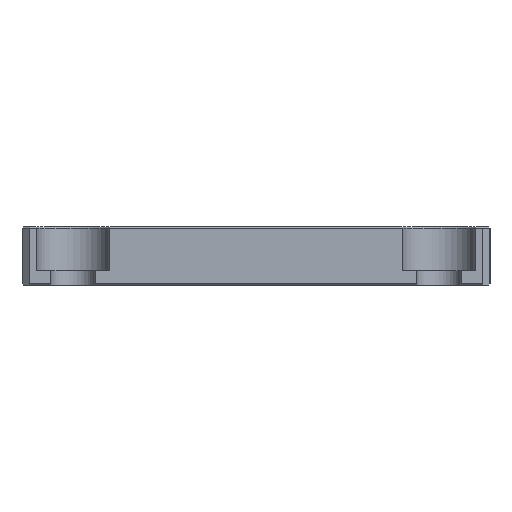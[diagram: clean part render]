
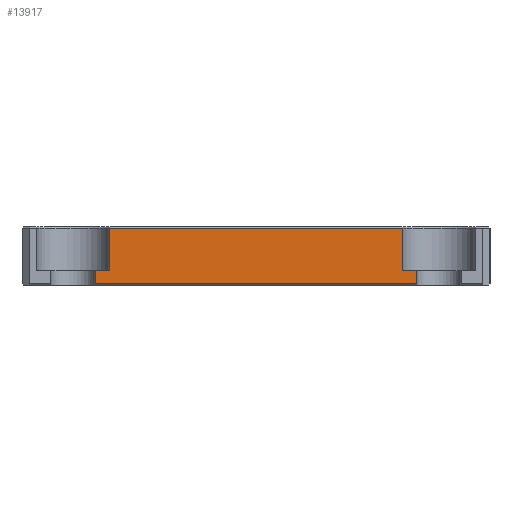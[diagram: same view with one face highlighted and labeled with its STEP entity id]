
A CAD part, left-side view. The second image highlights one B-rep face of the part: STEP entity #13917.
In plain terms, the highlighted planar face has unit normal (-1, 0, 0).
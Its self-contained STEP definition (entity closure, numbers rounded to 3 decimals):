
#234=DIRECTION('',(0.,1.,0.));
#235=VECTOR('',#234,43.9);
#236=CARTESIAN_POINT('',(-55.,-21.95,0.2));
#237=LINE('',#236,#235);
#238=DIRECTION('',(0.,0.,1.));
#239=VECTOR('',#238,1.8);
#240=CARTESIAN_POINT('',(-55.,21.95,0.2));
#241=LINE('',#240,#239);
#242=DIRECTION('',(0.,1.,0.));
#243=VECTOR('',#242,1.947);
#244=CARTESIAN_POINT('',(-55.,20.003,2.));
#245=LINE('',#244,#243);
#246=DIRECTION('',(0.,0.,-1.));
#247=VECTOR('',#246,5.8);
#248=CARTESIAN_POINT('',(-55.,20.003,7.8));
#249=LINE('',#248,#247);
#250=DIRECTION('',(0.,-1.,0.));
#251=VECTOR('',#250,40.006);
#252=CARTESIAN_POINT('',(-55.,20.003,7.8));
#253=LINE('',#252,#251);
#254=DIRECTION('',(0.,0.,-1.));
#255=VECTOR('',#254,5.8);
#256=CARTESIAN_POINT('',(-55.,-20.003,7.8));
#257=LINE('',#256,#255);
#258=DIRECTION('',(0.,1.,0.));
#259=VECTOR('',#258,1.947);
#260=CARTESIAN_POINT('',(-55.,-21.95,2.));
#261=LINE('',#260,#259);
#262=DIRECTION('',(0.,0.,1.));
#263=VECTOR('',#262,1.8);
#264=CARTESIAN_POINT('',(-55.,-21.95,0.2));
#265=LINE('',#264,#263);
#12706=CARTESIAN_POINT('',(-55.,-21.95,2.));
#12707=CARTESIAN_POINT('',(-55.,-20.003,2.));
#12708=VERTEX_POINT('',#12706);
#12709=VERTEX_POINT('',#12707);
#12710=CARTESIAN_POINT('',(-55.,20.003,2.));
#12711=CARTESIAN_POINT('',(-55.,21.95,2.));
#12712=VERTEX_POINT('',#12710);
#12713=VERTEX_POINT('',#12711);
#12854=CARTESIAN_POINT('',(-55.,20.003,7.8));
#12855=VERTEX_POINT('',#12854);
#12858=CARTESIAN_POINT('',(-55.,-20.003,7.8));
#12859=VERTEX_POINT('',#12858);
#12983=CARTESIAN_POINT('',(-55.,21.95,0.2));
#12985=VERTEX_POINT('',#12983);
#12986=CARTESIAN_POINT('',(-55.,-21.95,0.2));
#12987=VERTEX_POINT('',#12986);
#13896=CARTESIAN_POINT('',(-55.,32.,0.));
#13897=DIRECTION('',(-1.,0.,0.));
#13898=DIRECTION('',(0.,-1.,0.));
#13899=AXIS2_PLACEMENT_3D('',#13896,#13897,#13898);
#13900=PLANE('',#13899);
#13902=ORIENTED_EDGE('',*,*,#13901,.T.);
#13904=ORIENTED_EDGE('',*,*,#13903,.T.);
#13905=ORIENTED_EDGE('',*,*,#13793,.F.);
#13907=ORIENTED_EDGE('',*,*,#13906,.F.);
#13909=ORIENTED_EDGE('',*,*,#13908,.T.);
#13911=ORIENTED_EDGE('',*,*,#13910,.T.);
#13912=ORIENTED_EDGE('',*,*,#13777,.F.);
#13914=ORIENTED_EDGE('',*,*,#13913,.F.);
#13915=EDGE_LOOP('',(#13902,#13904,#13905,#13907,#13909,#13911,#13912,#13914));
#13916=FACE_OUTER_BOUND('',#13915,.F.);
#13917=ADVANCED_FACE('',(#13916),#13900,.T.);
#13777=EDGE_CURVE('',#12708,#12709,#261,.T.);
#13793=EDGE_CURVE('',#12712,#12713,#245,.T.);
#13901=EDGE_CURVE('',#12987,#12985,#237,.T.);
#13903=EDGE_CURVE('',#12985,#12713,#241,.T.);
#13906=EDGE_CURVE('',#12855,#12712,#249,.T.);
#13908=EDGE_CURVE('',#12855,#12859,#253,.T.);
#13910=EDGE_CURVE('',#12859,#12709,#257,.T.);
#13913=EDGE_CURVE('',#12987,#12708,#265,.T.);
